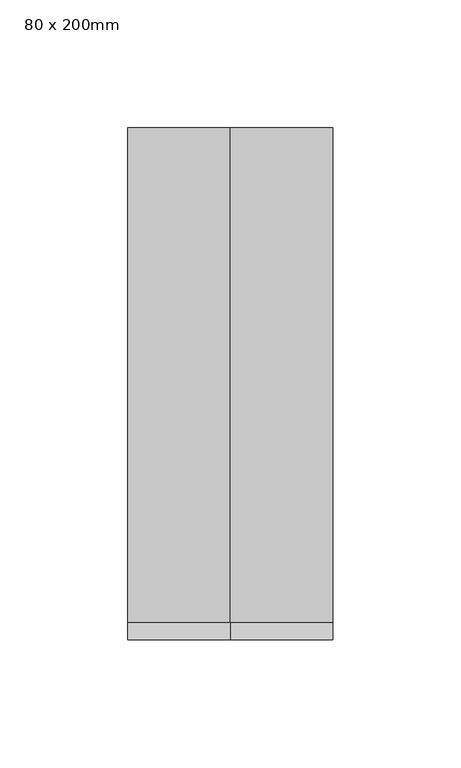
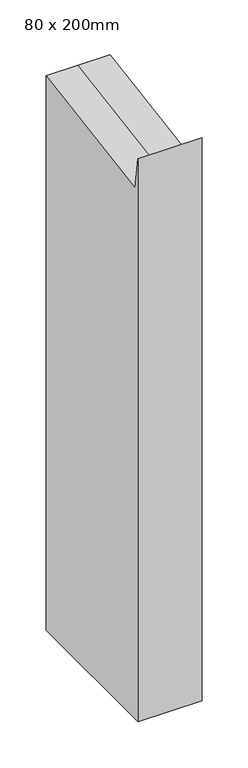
"""IFC4 building model written with IfcOpenShell, lengths in millimetres: member geometry, 矩形竖梃 : 80 x 200mm."""

from ifc_helpers import new_model, si_unit, origin, place, context, project, spatial, faceted_brep, source, transform, mapped, element, save


def member_80_x_200mm_537b8d84(model_context):
    return source(origin(), model_context, "Body", "Brep", [
        faceted_brep([(40.0, 100.0, -717.9709921), (40.0, -100.0, -717.9709921), (-40.0, -100.0, -717.9709921), (-40.0, 100.0, -717.9709921), (-40.0, 100.0, 15.6550995), (0.0, 100.0, 15.6550995), (40.0, 100.0, 15.6550995), (-40.0, -100.0, 26.9984805), (-40.0, -93.1622284, -15.4559133), (40.0, -100.0, 26.9984805), (0.0, -100.0, 26.9984805), (40.0, -93.1622284, -15.4559133), (0.0, -93.1622284, -15.4559133)], [[[0, 1, 2, 3]], [[4, 5, 6, 0, 3]], [[7, 8, 4, 3, 2]], [[9, 10, 7, 2, 1]], [[6, 11, 9, 1, 0]], [[6, 5, 12, 11]], [[5, 4, 8, 12]], [[8, 7, 10, 12]], [[10, 9, 11, 12]]]),
    ])


if __name__ == "__main__":
    model = new_model("IFC4")
    model_context = context("Model", 3, world=origin())
    ifc_project = project(units=[si_unit("LENGTHUNIT", "METRE", prefix="MILLI")], contexts=[model_context])
    site = spatial("IfcSite", under=ifc_project)
    building = spatial("IfcBuilding", under=site)
    placement = place(None, origin())
    member_80_x_200mm_shape = member_80_x_200mm_537b8d84(model_context)
    element("IfcMember", 1, ObjectType="矩形竖梃 : 80 x 200mm", at=placement, inside=building, context=model_context, shape_type="MappedRepresentation", body=[
        mapped(member_80_x_200mm_shape, transform((0.0, 0.0, 0.0), x_axis=(1.0, 0.0, 0.0), y_axis=(0.0, 1.0, 0.0), z_axis=(0.0, 0.0, 1.0))),
    ])
    save(model, "model.ifc")
